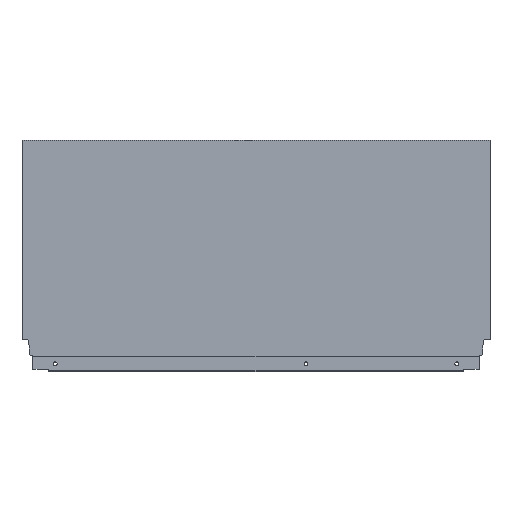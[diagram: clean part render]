
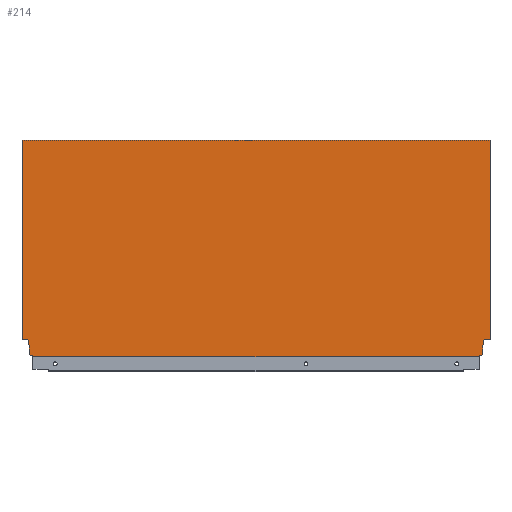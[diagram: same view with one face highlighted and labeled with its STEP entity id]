
A CAD part, top view. The second image highlights one B-rep face of the part: STEP entity #214.
In plain terms, the highlighted planar face has unit normal (0, 0, 1).
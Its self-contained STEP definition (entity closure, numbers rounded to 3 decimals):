
#42 = CARTESIAN_POINT ( 'NONE',  ( -563., 260.7, 8. ) ) ;
#88 = CARTESIAN_POINT ( 'NONE',  ( 0., 21.2, 8. ) ) ;
#90 = CARTESIAN_POINT ( 'NONE',  ( -549.996, 1.146, 8. ) ) ;
#91 = CARTESIAN_POINT ( 'NONE',  ( 0., 260.7, 8. ) ) ;
#94 = CARTESIAN_POINT ( 'NONE',  ( -8.9, 10.765, 8. ) ) ;
#97 = CARTESIAN_POINT ( 'NONE',  ( -13.004, 0., 8. ) ) ;
#102 = CARTESIAN_POINT ( 'NONE',  ( -7.06, 21.2, 8. ) ) ;
#110 = CARTESIAN_POINT ( 'NONE',  ( -554.1, 2.64, 8. ) ) ;
#112 = CARTESIAN_POINT ( 'NONE',  ( -563., 21.2, 8. ) ) ;
#119 = CARTESIAN_POINT ( 'NONE',  ( -8.9, 2.64, 8. ) ) ;
#121 = CARTESIAN_POINT ( 'NONE',  ( -549.996, 0., 8. ) ) ;
#145 = CARTESIAN_POINT ( 'NONE',  ( -555.94, 21.2, 8. ) ) ;
#150 = CARTESIAN_POINT ( 'NONE',  ( -554.1, 10.765, 8. ) ) ;
#156 = CARTESIAN_POINT ( 'NONE',  ( -13.004, 1.146, 8. ) ) ;
#162 = VECTOR ( 'NONE', #1076, 1000. ) ;
#163 = LINE ( 'NONE', #1077, #162 ) ;
#164 = LINE ( 'NONE', #1072, #675 ) ;
#165 = VECTOR ( 'NONE', #1079, 1000. ) ;
#166 = LINE ( 'NONE', #1074, #649 ) ;
#167 = VECTOR ( 'NONE', #1084, 1000. ) ;
#168 = VECTOR ( 'NONE', #1082, 1000. ) ;
#214 = ADVANCED_FACE ( 'NONE', ( #447 ), #1181, .T. ) ;
#219 = LINE ( 'NONE', #1099, #441 ) ;
#271 = AXIS2_PLACEMENT_3D ( 'NONE', #1178, #1172, #1171 ) ;
#317 = EDGE_CURVE ( 'NONE', #991, #1347, #219, .T. ) ;
#321 = EDGE_CURVE ( 'NONE', #909, #1021, #1380, .T. ) ;
#323 = EDGE_CURVE ( 'NONE', #1025, #913, #635, .T. ) ;
#324 = EDGE_CURVE ( 'NONE', #991, #1354, #632, .T. ) ;
#325 = EDGE_CURVE ( 'NONE', #950, #1354, #633, .T. ) ;
#326 = EDGE_CURVE ( 'NONE', #913, #909, #163, .T. ) ;
#327 = EDGE_CURVE ( 'NONE', #999, #950, #634, .T. ) ;
#328 = EDGE_CURVE ( 'NONE', #1347, #1025, #166, .T. ) ;
#329 = EDGE_CURVE ( 'NONE', #1348, #1345, #164, .T. ) ;
#330 = EDGE_CURVE ( 'NONE', #1369, #1021, #677, .T. ) ;
#332 = EDGE_CURVE ( 'NONE', #1351, #999, #673, .T. ) ;
#334 = EDGE_CURVE ( 'NONE', #1359, #1351, #671, .T. ) ;
#336 = EDGE_CURVE ( 'NONE', #1345, #1359, #644, .T. ) ;
#338 = EDGE_CURVE ( 'NONE', #1369, #1348, #647, .T. ) ;
#441 = VECTOR ( 'NONE', #1098, 1000. ) ;
#447 = FACE_OUTER_BOUND ( 'NONE', #705, .T. ) ;
#632 = LINE ( 'NONE', #1091, #168 ) ;
#633 = LINE ( 'NONE', #1083, #165 ) ;
#634 = LINE ( 'NONE', #1080, #676 ) ;
#635 = LINE ( 'NONE', #1086, #167 ) ;
#636 = VECTOR ( 'NONE', #1090, 1000. ) ;
#640 = VECTOR ( 'NONE', #1039, 1000. ) ;
#643 = VECTOR ( 'NONE', #1046, 1000. ) ;
#644 = LINE ( 'NONE', #1047, #643 ) ;
#647 = LINE ( 'NONE', #1044, #640 ) ;
#648 = VECTOR ( 'NONE', #1052, 1000. ) ;
#649 = VECTOR ( 'NONE', #1071, 1000. ) ;
#668 = VECTOR ( 'NONE', #1059, 1000. ) ;
#671 = LINE ( 'NONE', #1057, #648 ) ;
#672 = VECTOR ( 'NONE', #1065, 1000. ) ;
#673 = LINE ( 'NONE', #1066, #668 ) ;
#675 = VECTOR ( 'NONE', #1069, 1000. ) ;
#676 = VECTOR ( 'NONE', #1073, 1000. ) ;
#677 = LINE ( 'NONE', #1070, #672 ) ;
#705 = EDGE_LOOP ( 'NONE', ( #1465, #1498, #1447, #1515, #1516, #1539, #1433, #1429, #1428, #1421, #1432, #1431, #1427, #1423 ) ) ;
#909 = VERTEX_POINT ( 'NONE', #145 ) ;
#913 = VERTEX_POINT ( 'NONE', #150 ) ;
#950 = VERTEX_POINT ( 'NONE', #156 ) ;
#991 = VERTEX_POINT ( 'NONE', #121 ) ;
#999 = VERTEX_POINT ( 'NONE', #119 ) ;
#1021 = VERTEX_POINT ( 'NONE', #112 ) ;
#1025 = VERTEX_POINT ( 'NONE', #110 ) ;
#1039 = DIRECTION ( 'NONE',  ( 1., 0., 0. ) ) ;
#1044 = CARTESIAN_POINT ( 'NONE',  ( -563., 260.7, 8. ) ) ;
#1046 = DIRECTION ( 'NONE',  ( -1., 0., 0. ) ) ;
#1047 = CARTESIAN_POINT ( 'NONE',  ( 0., 21.2, 8. ) ) ;
#1052 = DIRECTION ( 'NONE',  ( -0.174, -0.985, 0. ) ) ;
#1057 = CARTESIAN_POINT ( 'NONE',  ( -7.06, 21.2, 8. ) ) ;
#1059 = DIRECTION ( 'NONE',  ( 0., -1., 0. ) ) ;
#1065 = DIRECTION ( 'NONE',  ( 0., -1., 0. ) ) ;
#1066 = CARTESIAN_POINT ( 'NONE',  ( -8.9, 10.765, 8. ) ) ;
#1069 = DIRECTION ( 'NONE',  ( 0., -1., 0. ) ) ;
#1070 = CARTESIAN_POINT ( 'NONE',  ( -563., 0., 8. ) ) ;
#1071 = DIRECTION ( 'NONE',  ( -0.94, 0.342, 0. ) ) ;
#1072 = CARTESIAN_POINT ( 'NONE',  ( 0., 0., 8. ) ) ;
#1073 = DIRECTION ( 'NONE',  ( -0.94, -0.342, 0. ) ) ;
#1074 = CARTESIAN_POINT ( 'NONE',  ( -554.1, 2.64, 8. ) ) ;
#1076 = DIRECTION ( 'NONE',  ( -0.174, 0.985, 0. ) ) ;
#1077 = CARTESIAN_POINT ( 'NONE',  ( -555.94, 21.2, 8. ) ) ;
#1079 = DIRECTION ( 'NONE',  ( 0., -1., 0. ) ) ;
#1080 = CARTESIAN_POINT ( 'NONE',  ( -8.9, 2.64, 8. ) ) ;
#1082 = DIRECTION ( 'NONE',  ( 1., 0., 0. ) ) ;
#1083 = CARTESIAN_POINT ( 'NONE',  ( -13.004, 1.146, 8. ) ) ;
#1084 = DIRECTION ( 'NONE',  ( 0., 1., 0. ) ) ;
#1086 = CARTESIAN_POINT ( 'NONE',  ( -554.1, 10.765, 8. ) ) ;
#1090 = DIRECTION ( 'NONE',  ( -1., 0., 0. ) ) ;
#1091 = CARTESIAN_POINT ( 'NONE',  ( -563., 0., 8. ) ) ;
#1095 = CARTESIAN_POINT ( 'NONE',  ( -568., 21.2, 8. ) ) ;
#1098 = DIRECTION ( 'NONE',  ( 0., 1., 0. ) ) ;
#1099 = CARTESIAN_POINT ( 'NONE',  ( -549.996, 1.146, 8. ) ) ;
#1171 = DIRECTION ( 'NONE',  ( 1., 0., 0. ) ) ;
#1172 = DIRECTION ( 'NONE',  ( 0., 0., 1. ) ) ;
#1178 = CARTESIAN_POINT ( 'NONE',  ( -563., 0., 8. ) ) ;
#1181 = PLANE ( 'NONE',  #271 ) ;
#1345 = VERTEX_POINT ( 'NONE', #88 ) ;
#1347 = VERTEX_POINT ( 'NONE', #90 ) ;
#1348 = VERTEX_POINT ( 'NONE', #91 ) ;
#1351 = VERTEX_POINT ( 'NONE', #94 ) ;
#1354 = VERTEX_POINT ( 'NONE', #97 ) ;
#1359 = VERTEX_POINT ( 'NONE', #102 ) ;
#1369 = VERTEX_POINT ( 'NONE', #42 ) ;
#1380 = LINE ( 'NONE', #1095, #636 ) ;
#1421 = ORIENTED_EDGE ( 'NONE', *, *, #332, .F. ) ;
#1423 = ORIENTED_EDGE ( 'NONE', *, *, #338, .F. ) ;
#1427 = ORIENTED_EDGE ( 'NONE', *, *, #329, .F. ) ;
#1428 = ORIENTED_EDGE ( 'NONE', *, *, #327, .F. ) ;
#1429 = ORIENTED_EDGE ( 'NONE', *, *, #325, .F. ) ;
#1431 = ORIENTED_EDGE ( 'NONE', *, *, #336, .F. ) ;
#1432 = ORIENTED_EDGE ( 'NONE', *, *, #334, .F. ) ;
#1433 = ORIENTED_EDGE ( 'NONE', *, *, #324, .T. ) ;
#1447 = ORIENTED_EDGE ( 'NONE', *, *, #326, .F. ) ;
#1465 = ORIENTED_EDGE ( 'NONE', *, *, #330, .T. ) ;
#1498 = ORIENTED_EDGE ( 'NONE', *, *, #321, .F. ) ;
#1515 = ORIENTED_EDGE ( 'NONE', *, *, #323, .F. ) ;
#1516 = ORIENTED_EDGE ( 'NONE', *, *, #328, .F. ) ;
#1539 = ORIENTED_EDGE ( 'NONE', *, *, #317, .F. ) ;
